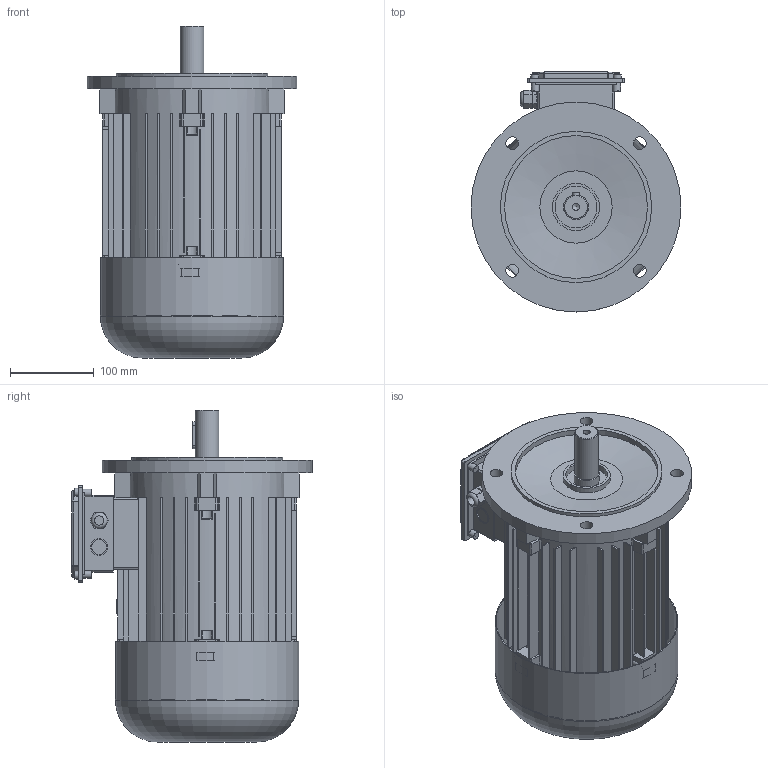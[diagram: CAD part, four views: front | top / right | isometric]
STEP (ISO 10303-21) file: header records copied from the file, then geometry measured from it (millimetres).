
FILE_DESCRIPTION(/* description */ (''),/* implementation_level */ '2;1');
FILE_NAME(/* name */ 'C:\Users\Public\Documents\Autodesk\Inventor LT 2014\Workspace\Componenti_ecoPM\4 - ECO_112 (TG6)\ECO5_112_xxA2.stp',/* time_stamp */ '2021-07-28T16:02:50+02:00',/* author */ ('marcor'),/* organization */ (''),/* preprocessor_version */ 'ST-DEVELOPER v15.2',/* originating_system */ 'Autodesk Inventor LT ',/* authorisation */ '');
FILE_SCHEMA (('AUTOMOTIVE_DESIGN { 1 0 10303 214 3 1 1 }'));
Length unit declared in the file: millimetre
Products named in the file (1): ECO5_112_xx_A2_FULL
Bounding box: 250 x 285.8 x 395.3 mm (x, y, z)
Volume: 8225464.6 mm3; surface area: 647188.1 mm2
Topology: 1 solids, 5 shells, 528 faces, 1420 edges, 924 vertices
Faces by surface type: plane 319, cylinder 159, cone 22, torus 11, bspline 9, sphere 8
Full cylindrical faces by diameter (mm): 4.134 x4, 4.2 x4, 6.647 x1, 8.376 x1, 9 x4, 9.5 x4, 11 x1, 15 x4, 16 x2, 16.9 x1, 17.294 x1, 18 x2, 20 x1, 28 x1, 30 x1, 50 x2, 54.9 x1, 56 x1, 158.914 x1, 170 x1, 180 x1, 216 x1, 218 x1, 250 x1
Entity records: 16909 total; most frequent: CARTESIAN_POINT 3877, DIRECTION 2698, ORIENTED_EDGE 2668, EDGE_CURVE 1330, AXIS2_PLACEMENT_3D 952, VERTEX_POINT 900, LINE 794, VECTOR 794
